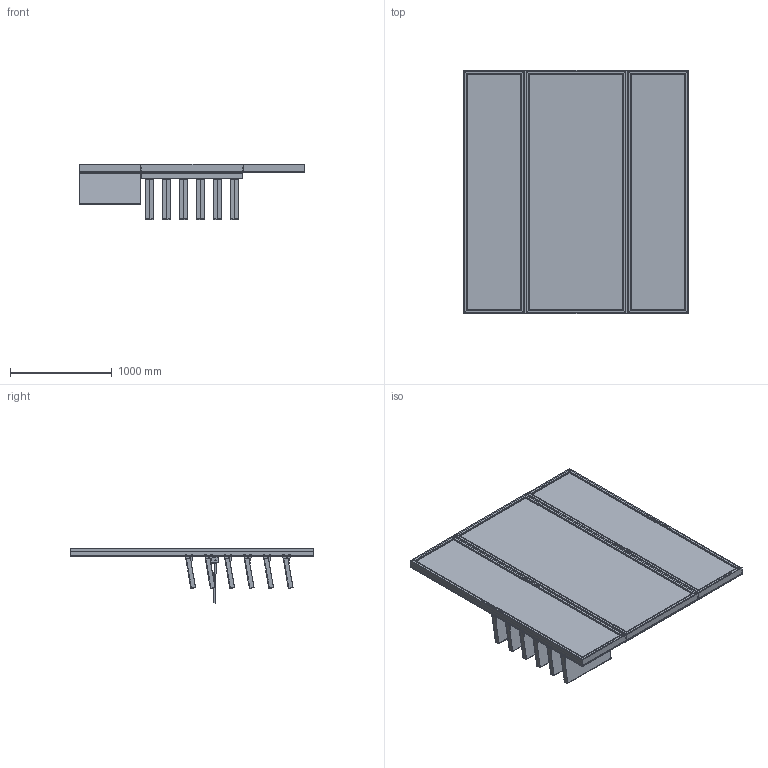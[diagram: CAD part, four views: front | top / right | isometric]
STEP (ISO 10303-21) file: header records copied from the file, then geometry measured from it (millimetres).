
FILE_DESCRIPTION (( 'STEP AP203' ), '1' );
FILE_NAME ('Slotted UpBright® Pro Shop Fitting Bay Fixture (Extra).STEP', '2026-04-02T13:03:51', ( '' ), ( '' ), 'SwSTEP 2.0', 'SolidWorks 2025', '' );
FILE_SCHEMA (( 'CONFIG_CONTROL_DESIGN' ));
Length unit declared in the file: millimetre
Products named in the file (19): 0001-31-133__X2_96f64ef6_X0_8_默认; Slotted UpBright® Pro Shop Fitting Bay Fixture (Extra); 0001-31-GA01 - 610W Slotted Upright; 0001-29-SA01__X2_88c5914d4f53_X0_4_默认; 0001-31-SA34 - Shaft Arm__X2_88c5914d4f53_X0_2_默认; 0001-31-GA10 - 1005W Slotted upbright; 0001-31-128__X2_96f64ef6_X0_6_默认; 0001-31-134__X2_96f64ef6_X0_46_默认; 0001-31-136__X2_96f64ef6_X0_45_默认; 0001-29-004__X2_96f64ef6_X0_32_默认; 0001-31-SA36 - 1005W Slatwall Extender__X2_88c5914d4f53_X0_7_默认; 0001-29-002__X2_96f64ef6_X0_24_默认; 0001-31-137__X2_96f64ef6_X0_44_默认; 0001-31-129__X2_96f64ef6_X0_7_默认; 0001-29-001__X2_96f64ef6_X0_25_默认; 0001-29-003__X2_96f64ef6_X0_26_默认; 0001-29-GA02 - Iron head tray 610W__X2_88c5914d4f53_X0_10_默认; 0001-29-GA01 - Driver head tray 610W__X2_88c5914d4f53_X0_5_默认; BS EN ISO 10642 - M6 x 16 - 16N_BS EN ISO 10642 - M6 x 16 - 16N__X2_96f64ef6_X0_43_默认
Assembly tree (33 placements, depth 4):
  Slotted UpBright® Pro Shop Fitting Bay Fixture (Extra)
    0001-31-SA36 - 1005W Slatwall Extender__X2_88c5914d4f53_X0_7_默认
      BS EN ISO 10642 - M6 x 16 - 16N_BS EN ISO 10642 - M6 x 16 - 16N__X2_96f64ef6_X0_43_默认  x4
      0001-31-137__X2_96f64ef6_X0_44_默认
      0001-31-136__X2_96f64ef6_X0_45_默认
      0001-31-134__X2_96f64ef6_X0_46_默认
    0001-31-SA34 - Shaft Arm__X2_88c5914d4f53_X0_2_默认  x6
      0001-31-128__X2_96f64ef6_X0_6_默认
      0001-31-129__X2_96f64ef6_X0_7_默认
      0001-31-133__X2_96f64ef6_X0_8_默认
    0001-29-GA01 - Driver head tray 610W__X2_88c5914d4f53_X0_5_默认  x3
      0001-29-SA01__X2_88c5914d4f53_X0_4_默认
        0001-29-002__X2_96f64ef6_X0_24_默认  x2
        0001-29-001__X2_96f64ef6_X0_25_默认
      0001-29-003__X2_96f64ef6_X0_26_默认
    0001-29-GA02 - Iron head tray 610W__X2_88c5914d4f53_X0_10_默认  x3
      0001-29-SA01__X2_88c5914d4f53_X0_4_默认
        0001-29-002__X2_96f64ef6_X0_24_默认  x2
        0001-29-001__X2_96f64ef6_X0_25_默认
      0001-29-004__X2_96f64ef6_X0_32_默认
    0001-31-GA01 - 610W Slotted Upright  x2
    0001-31-GA10 - 1005W Slotted upbright
Bounding box: 2225.24 x 2400 x 542.17 mm (x, y, z)
Volume: 66693794 mm3; surface area: 35353637.6 mm2
Topology: 67 solids, 103 shells, 2888 faces, 8862 edges, 5880 vertices
Faces by surface type: plane 2152, cylinder 696, cone 32, torus 8
Entity records: 53279 total; most frequent: CARTESIAN_POINT 9738, ORIENTED_EDGE 9272, DIRECTION 7628, EDGE_CURVE 4636, LINE 4146, VECTOR 4146, VERTEX_POINT 3083, AXIS2_PLACEMENT_3D 1741
